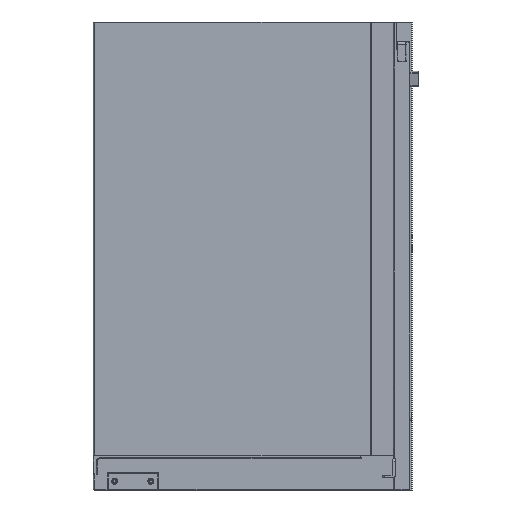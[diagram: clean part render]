
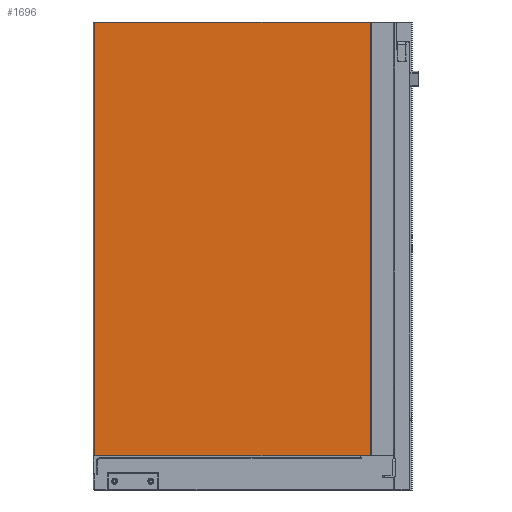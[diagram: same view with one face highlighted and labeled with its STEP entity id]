
A CAD part, left-side view. The second image highlights one B-rep face of the part: STEP entity #1696.
In plain terms, the highlighted planar face has unit normal (-1, 0, 0).
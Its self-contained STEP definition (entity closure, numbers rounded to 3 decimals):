
#263 = VERTEX_POINT ( 'NONE', #11651 ) ;
#1681 = ORIENTED_EDGE ( 'NONE', *, *, #11207, .T. ) ;
#1696 = ADVANCED_FACE ( 'NONE', ( #7071 ), #11695, .T. ) ;
#1969 = ORIENTED_EDGE ( 'NONE', *, *, #3087, .F. ) ;
#1980 = ORIENTED_EDGE ( 'NONE', *, *, #12259, .F. ) ;
#2176 = CARTESIAN_POINT ( 'NONE',  ( 0.5, 205.8, -323.5 ) ) ;
#2334 = EDGE_LOOP ( 'NONE', ( #1980, #1969, #7438, #1681 ) ) ;
#2550 = CARTESIAN_POINT ( 'NONE',  ( 0.5, 0., 0. ) ) ;
#2616 = LINE ( 'NONE', #9363, #12689 ) ;
#2815 = CARTESIAN_POINT ( 'NONE',  ( 0.5, 0., -412.455 ) ) ;
#3087 = EDGE_CURVE ( 'NONE', #6964, #3833, #2616, .T. ) ;
#3716 = AXIS2_PLACEMENT_3D ( 'NONE', #2815, #6551, #12248 ) ;
#3833 = VERTEX_POINT ( 'NONE', #2176 ) ;
#4888 = VECTOR ( 'NONE', #9534, 1000. ) ;
#5596 = DIRECTION ( 'NONE',  ( 0., 1., 0. ) ) ;
#5671 = VECTOR ( 'NONE', #5596, 1000. ) ;
#5853 = LINE ( 'NONE', #11134, #10728 ) ;
#6551 = DIRECTION ( 'NONE',  ( -1., 0., 0. ) ) ;
#6964 = VERTEX_POINT ( 'NONE', #12587 ) ;
#7071 = FACE_OUTER_BOUND ( 'NONE', #2334, .T. ) ;
#7438 = ORIENTED_EDGE ( 'NONE', *, *, #10502, .T. ) ;
#7557 = CARTESIAN_POINT ( 'NONE',  ( 0.5, 205.8, -412.455 ) ) ;
#8562 = LINE ( 'NONE', #2550, #5671 ) ;
#9363 = CARTESIAN_POINT ( 'NONE',  ( 0.5, 0., -323.5 ) ) ;
#9534 = DIRECTION ( 'NONE',  ( 0., 0., 1. ) ) ;
#10502 = EDGE_CURVE ( 'NONE', #6964, #263, #5853, .T. ) ;
#10728 = VECTOR ( 'NONE', #12113, 1000. ) ;
#10910 = CARTESIAN_POINT ( 'NONE',  ( 0.5, 205.8, 0. ) ) ;
#11134 = CARTESIAN_POINT ( 'NONE',  ( 0.5, 0., -412.455 ) ) ;
#11207 = EDGE_CURVE ( 'NONE', #263, #11488, #8562, .T. ) ;
#11298 = DIRECTION ( 'NONE',  ( 0., 1., 0. ) ) ;
#11488 = VERTEX_POINT ( 'NONE', #10910 ) ;
#11651 = CARTESIAN_POINT ( 'NONE',  ( 0.5, 0., 0. ) ) ;
#11695 = PLANE ( 'NONE',  #3716 ) ;
#12113 = DIRECTION ( 'NONE',  ( 0., 0., 1. ) ) ;
#12248 = DIRECTION ( 'NONE',  ( 0., 0., 1. ) ) ;
#12259 = EDGE_CURVE ( 'NONE', #3833, #11488, #12639, .T. ) ;
#12587 = CARTESIAN_POINT ( 'NONE',  ( 0.5, 0., -323.5 ) ) ;
#12639 = LINE ( 'NONE', #7557, #4888 ) ;
#12689 = VECTOR ( 'NONE', #11298, 1000. ) ;
